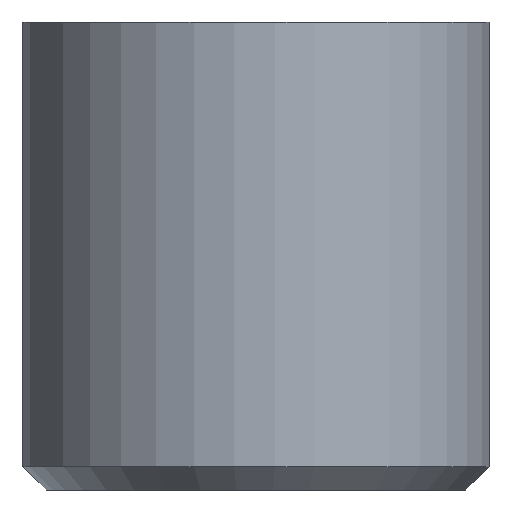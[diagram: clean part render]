
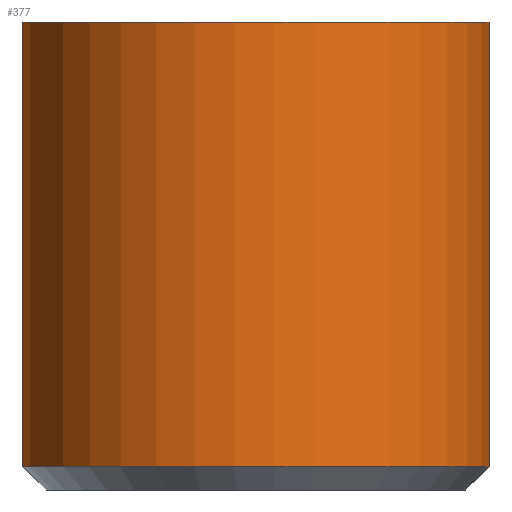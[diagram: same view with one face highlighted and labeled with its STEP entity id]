
A CAD part, front view. The second image highlights one B-rep face of the part: STEP entity #377.
In plain terms, the highlighted cylindrical face has radius 6.35 mm (diameter 12.7 mm), a partial arc.
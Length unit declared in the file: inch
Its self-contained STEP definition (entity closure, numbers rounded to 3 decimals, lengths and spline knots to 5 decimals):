
#11 = EDGE_CURVE ( 'NONE', #448, #487, #395, .T. ) ;
#20 = ORIENTED_EDGE ( 'NONE', *, *, #633, .T. ) ;
#30 = CARTESIAN_POINT ( 'NONE',  ( 0., 0., 0. ) ) ;
#116 = CYLINDRICAL_SURFACE ( 'NONE', #295, 0.25 ) ;
#128 = DIRECTION ( 'NONE',  ( -0.996, 0.093, 0. ) ) ;
#144 = CIRCLE ( 'NONE', #343, 0.25 ) ;
#162 = LINE ( 'NONE', #349, #547 ) ;
#219 = VERTEX_POINT ( 'NONE', #568 ) ;
#220 = DIRECTION ( 'NONE',  ( 0., 0., 1. ) ) ;
#225 = VERTEX_POINT ( 'NONE', #570 ) ;
#263 = FACE_OUTER_BOUND ( 'NONE', #363, .T. ) ;
#275 = DIRECTION ( 'NONE',  ( 0.996, -0.093, 0. ) ) ;
#277 = CARTESIAN_POINT ( 'NONE',  ( -0.24891, 0.02334, -0.5 ) ) ;
#295 = AXIS2_PLACEMENT_3D ( 'NONE', #534, #586, #128 ) ;
#326 = ORIENTED_EDGE ( 'NONE', *, *, #11, .T. ) ;
#343 = AXIS2_PLACEMENT_3D ( 'NONE', #30, #511, #275 ) ;
#349 = CARTESIAN_POINT ( 'NONE',  ( 0.24891, -0.02334, -0.5 ) ) ;
#363 = EDGE_LOOP ( 'NONE', ( #326, #20, #660, #412 ) ) ;
#377 = ADVANCED_FACE ( 'NONE', ( #263 ), #116, .T. ) ;
#387 = DIRECTION ( 'NONE',  ( 0.996, -0.093, 0. ) ) ;
#388 = CARTESIAN_POINT ( 'NONE',  ( 0.24891, -0.02334, -0.475 ) ) ;
#391 = DIRECTION ( 'NONE',  ( 0., 0., 1. ) ) ;
#395 = CIRCLE ( 'NONE', #573, 0.25 ) ;
#406 = EDGE_CURVE ( 'NONE', #219, #225, #144, .T. ) ;
#412 = ORIENTED_EDGE ( 'NONE', *, *, #485, .F. ) ;
#443 = CARTESIAN_POINT ( 'NONE',  ( -0.24891, 0.02334, -0.475 ) ) ;
#448 = VERTEX_POINT ( 'NONE', #443 ) ;
#485 = EDGE_CURVE ( 'NONE', #448, #225, #518, .T. ) ;
#487 = VERTEX_POINT ( 'NONE', #388 ) ;
#511 = DIRECTION ( 'NONE',  ( 0., 0., -1. ) ) ;
#518 = LINE ( 'NONE', #277, #730 ) ;
#534 = CARTESIAN_POINT ( 'NONE',  ( 0., 0., -0.5 ) ) ;
#547 = VECTOR ( 'NONE', #391, 39.37008 ) ;
#562 = CARTESIAN_POINT ( 'NONE',  ( 0., 0., -0.475 ) ) ;
#568 = CARTESIAN_POINT ( 'NONE',  ( 0.24891, -0.02334, 0. ) ) ;
#570 = CARTESIAN_POINT ( 'NONE',  ( -0.24891, 0.02334, 0. ) ) ;
#573 = AXIS2_PLACEMENT_3D ( 'NONE', #562, #220, #387 ) ;
#586 = DIRECTION ( 'NONE',  ( 0., 0., 1. ) ) ;
#633 = EDGE_CURVE ( 'NONE', #487, #219, #162, .T. ) ;
#660 = ORIENTED_EDGE ( 'NONE', *, *, #406, .T. ) ;
#721 = DIRECTION ( 'NONE',  ( 0., 0., 1. ) ) ;
#730 = VECTOR ( 'NONE', #721, 39.37008 ) ;
